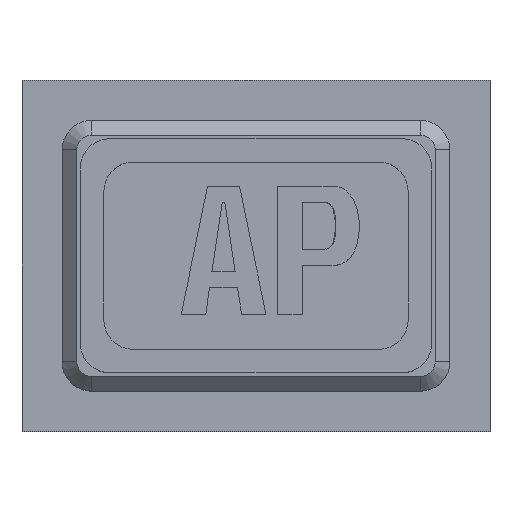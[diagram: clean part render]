
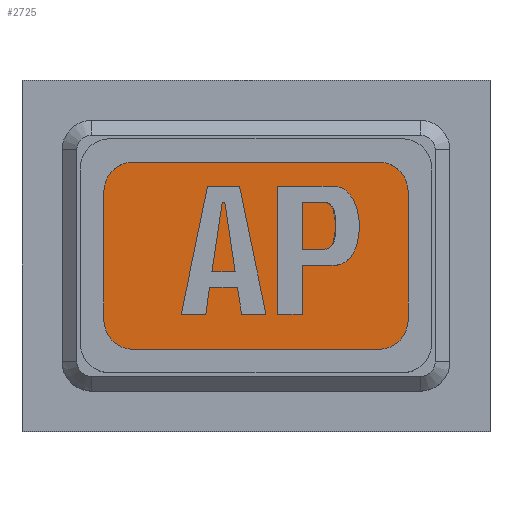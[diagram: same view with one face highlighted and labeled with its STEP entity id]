
A CAD part, top view. The second image highlights one B-rep face of the part: STEP entity #2725.
In plain terms, the highlighted planar face has unit normal (0, 0, 1).
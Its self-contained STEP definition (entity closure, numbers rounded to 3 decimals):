
#1773 = PLANE('',#1774);
#1774 = AXIS2_PLACEMENT_3D('',#1775,#1776,#1777);
#1775 = CARTESIAN_POINT('',(2.8,2.8,4.5));
#1776 = DIRECTION('',(-1.,0.,0.));
#1777 = DIRECTION('',(0.,1.,0.));
#1806 = CYLINDRICAL_SURFACE('',#1807,1.);
#1807 = AXIS2_PLACEMENT_3D('',#1808,#1809,#1810);
#1808 = CARTESIAN_POINT('',(3.8,3.8,4.5));
#1809 = DIRECTION('',(0.,0.,1.));
#1810 = DIRECTION('',(-1.,0.,0.));
#1834 = PLANE('',#1835);
#1835 = AXIS2_PLACEMENT_3D('',#1836,#1837,#1838);
#1836 = CARTESIAN_POINT('',(13.2,2.8,4.5));
#1837 = DIRECTION('',(0.,-1.,0.));
#1838 = DIRECTION('',(-1.,0.,0.));
#1867 = CYLINDRICAL_SURFACE('',#1868,1.);
#1868 = AXIS2_PLACEMENT_3D('',#1869,#1870,#1871);
#1869 = CARTESIAN_POINT('',(12.2,3.8,4.5));
#1870 = DIRECTION('',(0.,0.,1.));
#1871 = DIRECTION('',(0.,-1.,0.));
#1895 = PLANE('',#1896);
#1896 = AXIS2_PLACEMENT_3D('',#1897,#1898,#1899);
#1897 = CARTESIAN_POINT('',(13.2,9.2,4.5));
#1898 = DIRECTION('',(1.,0.,0.));
#1899 = DIRECTION('',(0.,-1.,0.));
#1928 = CYLINDRICAL_SURFACE('',#1929,1.);
#1929 = AXIS2_PLACEMENT_3D('',#1930,#1931,#1932);
#1930 = CARTESIAN_POINT('',(12.2,8.2,4.5));
#1931 = DIRECTION('',(0.,0.,1.));
#1932 = DIRECTION('',(1.,0.,0.));
#1956 = PLANE('',#1957);
#1957 = AXIS2_PLACEMENT_3D('',#1958,#1959,#1960);
#1958 = CARTESIAN_POINT('',(2.8,9.2,4.5));
#1959 = DIRECTION('',(0.,1.,0.));
#1960 = DIRECTION('',(1.,0.,0.));
#1983 = CYLINDRICAL_SURFACE('',#1984,1.);
#1984 = AXIS2_PLACEMENT_3D('',#1985,#1986,#1987);
#1985 = CARTESIAN_POINT('',(3.8,8.2,4.5));
#1986 = DIRECTION('',(0.,0.,1.));
#1987 = DIRECTION('',(-1.,0.,0.));
#2123 = EDGE_CURVE('',#2124,#2126,#2128,.T.);
#2124 = VERTEX_POINT('',#2125);
#2125 = CARTESIAN_POINT('',(2.8,3.8,4.5));
#2126 = VERTEX_POINT('',#2127);
#2127 = CARTESIAN_POINT('',(2.8,8.2,4.5));
#2128 = SURFACE_CURVE('',#2129,(#2133,#2140),.PCURVE_S1.);
#2129 = LINE('',#2130,#2131);
#2130 = CARTESIAN_POINT('',(2.8,2.8,4.5));
#2131 = VECTOR('',#2132,1.);
#2132 = DIRECTION('',(0.,1.,0.));
#2133 = PCURVE('',#1773,#2134);
#2134 = DEFINITIONAL_REPRESENTATION('',(#2135),#2139);
#2135 = LINE('',#2136,#2137);
#2136 = CARTESIAN_POINT('',(0.,0.));
#2137 = VECTOR('',#2138,1.);
#2138 = DIRECTION('',(1.,0.));
#2139 = ( GEOMETRIC_REPRESENTATION_CONTEXT(2) 
PARAMETRIC_REPRESENTATION_CONTEXT() REPRESENTATION_CONTEXT('2D SPACE',''
  ) );
#2140 = PCURVE('',#2141,#2146);
#2141 = PLANE('',#2142);
#2142 = AXIS2_PLACEMENT_3D('',#2143,#2144,#2145);
#2143 = CARTESIAN_POINT('',(8.,6.,4.5));
#2144 = DIRECTION('',(0.,0.,1.));
#2145 = DIRECTION('',(1.,0.,0.));
#2146 = DEFINITIONAL_REPRESENTATION('',(#2147),#2151);
#2147 = LINE('',#2148,#2149);
#2148 = CARTESIAN_POINT('',(-5.2,-3.2));
#2149 = VECTOR('',#2150,1.);
#2150 = DIRECTION('',(0.,1.));
#2151 = ( GEOMETRIC_REPRESENTATION_CONTEXT(2) 
PARAMETRIC_REPRESENTATION_CONTEXT() REPRESENTATION_CONTEXT('2D SPACE',''
  ) );
#2199 = EDGE_CURVE('',#2124,#2200,#2202,.T.);
#2200 = VERTEX_POINT('',#2201);
#2201 = CARTESIAN_POINT('',(3.8,2.8,4.5));
#2202 = SURFACE_CURVE('',#2203,(#2208,#2215),.PCURVE_S1.);
#2203 = CIRCLE('',#2204,1.);
#2204 = AXIS2_PLACEMENT_3D('',#2205,#2206,#2207);
#2205 = CARTESIAN_POINT('',(3.8,3.8,4.5));
#2206 = DIRECTION('',(-0.,0.,1.));
#2207 = DIRECTION('',(0.,-1.,0.));
#2208 = PCURVE('',#1806,#2209);
#2209 = DEFINITIONAL_REPRESENTATION('',(#2210),#2214);
#2210 = LINE('',#2211,#2212);
#2211 = CARTESIAN_POINT('',(-4.712,0.));
#2212 = VECTOR('',#2213,1.);
#2213 = DIRECTION('',(1.,0.));
#2214 = ( GEOMETRIC_REPRESENTATION_CONTEXT(2) 
PARAMETRIC_REPRESENTATION_CONTEXT() REPRESENTATION_CONTEXT('2D SPACE',''
  ) );
#2215 = PCURVE('',#2141,#2216);
#2216 = DEFINITIONAL_REPRESENTATION('',(#2217),#2221);
#2217 = CIRCLE('',#2218,1.);
#2218 = AXIS2_PLACEMENT_2D('',#2219,#2220);
#2219 = CARTESIAN_POINT('',(-4.2,-2.2));
#2220 = DIRECTION('',(0.,-1.));
#2221 = ( GEOMETRIC_REPRESENTATION_CONTEXT(2) 
PARAMETRIC_REPRESENTATION_CONTEXT() REPRESENTATION_CONTEXT('2D SPACE',''
  ) );
#2249 = EDGE_CURVE('',#2126,#2250,#2252,.T.);
#2250 = VERTEX_POINT('',#2251);
#2251 = CARTESIAN_POINT('',(3.8,9.2,4.5));
#2252 = SURFACE_CURVE('',#2253,(#2258,#2265),.PCURVE_S1.);
#2253 = CIRCLE('',#2254,1.);
#2254 = AXIS2_PLACEMENT_3D('',#2255,#2256,#2257);
#2255 = CARTESIAN_POINT('',(3.8,8.2,4.5));
#2256 = DIRECTION('',(-0.,-0.,-1.));
#2257 = DIRECTION('',(0.,-1.,0.));
#2258 = PCURVE('',#1983,#2259);
#2259 = DEFINITIONAL_REPRESENTATION('',(#2260),#2264);
#2260 = LINE('',#2261,#2262);
#2261 = CARTESIAN_POINT('',(1.571,-0.));
#2262 = VECTOR('',#2263,1.);
#2263 = DIRECTION('',(-1.,0.));
#2264 = ( GEOMETRIC_REPRESENTATION_CONTEXT(2) 
PARAMETRIC_REPRESENTATION_CONTEXT() REPRESENTATION_CONTEXT('2D SPACE',''
  ) );
#2265 = PCURVE('',#2141,#2266);
#2266 = DEFINITIONAL_REPRESENTATION('',(#2267),#2275);
#2267 = ( BOUNDED_CURVE() B_SPLINE_CURVE(2,(#2268,#2269,#2270,#2271,
#2272,#2273,#2274),.UNSPECIFIED.,.T.,.F.) B_SPLINE_CURVE_WITH_KNOTS((1,2
    ,2,2,2,1),(-2.094,0.,2.094,4.189,
6.283,8.378),.UNSPECIFIED.) CURVE() 
GEOMETRIC_REPRESENTATION_ITEM() RATIONAL_B_SPLINE_CURVE((1.,0.5,1.,0.5,
1.,0.5,1.)) REPRESENTATION_ITEM('') );
#2268 = CARTESIAN_POINT('',(-4.2,1.2));
#2269 = CARTESIAN_POINT('',(-5.932,1.2));
#2270 = CARTESIAN_POINT('',(-5.066,2.7));
#2271 = CARTESIAN_POINT('',(-4.2,4.2));
#2272 = CARTESIAN_POINT('',(-3.334,2.7));
#2273 = CARTESIAN_POINT('',(-2.468,1.2));
#2274 = CARTESIAN_POINT('',(-4.2,1.2));
#2275 = ( GEOMETRIC_REPRESENTATION_CONTEXT(2) 
PARAMETRIC_REPRESENTATION_CONTEXT() REPRESENTATION_CONTEXT('2D SPACE',''
  ) );
#2303 = EDGE_CURVE('',#2304,#2200,#2306,.T.);
#2304 = VERTEX_POINT('',#2305);
#2305 = CARTESIAN_POINT('',(12.2,2.8,4.5));
#2306 = SURFACE_CURVE('',#2307,(#2311,#2318),.PCURVE_S1.);
#2307 = LINE('',#2308,#2309);
#2308 = CARTESIAN_POINT('',(13.2,2.8,4.5));
#2309 = VECTOR('',#2310,1.);
#2310 = DIRECTION('',(-1.,0.,0.));
#2311 = PCURVE('',#1834,#2312);
#2312 = DEFINITIONAL_REPRESENTATION('',(#2313),#2317);
#2313 = LINE('',#2314,#2315);
#2314 = CARTESIAN_POINT('',(0.,-0.));
#2315 = VECTOR('',#2316,1.);
#2316 = DIRECTION('',(1.,0.));
#2317 = ( GEOMETRIC_REPRESENTATION_CONTEXT(2) 
PARAMETRIC_REPRESENTATION_CONTEXT() REPRESENTATION_CONTEXT('2D SPACE',''
  ) );
#2318 = PCURVE('',#2141,#2319);
#2319 = DEFINITIONAL_REPRESENTATION('',(#2320),#2324);
#2320 = LINE('',#2321,#2322);
#2321 = CARTESIAN_POINT('',(5.2,-3.2));
#2322 = VECTOR('',#2323,1.);
#2323 = DIRECTION('',(-1.,0.));
#2324 = ( GEOMETRIC_REPRESENTATION_CONTEXT(2) 
PARAMETRIC_REPRESENTATION_CONTEXT() REPRESENTATION_CONTEXT('2D SPACE',''
  ) );
#2352 = EDGE_CURVE('',#2250,#2353,#2355,.T.);
#2353 = VERTEX_POINT('',#2354);
#2354 = CARTESIAN_POINT('',(12.2,9.2,4.5));
#2355 = SURFACE_CURVE('',#2356,(#2360,#2367),.PCURVE_S1.);
#2356 = LINE('',#2357,#2358);
#2357 = CARTESIAN_POINT('',(2.8,9.2,4.5));
#2358 = VECTOR('',#2359,1.);
#2359 = DIRECTION('',(1.,0.,0.));
#2360 = PCURVE('',#1956,#2361);
#2361 = DEFINITIONAL_REPRESENTATION('',(#2362),#2366);
#2362 = LINE('',#2363,#2364);
#2363 = CARTESIAN_POINT('',(0.,0.));
#2364 = VECTOR('',#2365,1.);
#2365 = DIRECTION('',(1.,0.));
#2366 = ( GEOMETRIC_REPRESENTATION_CONTEXT(2) 
PARAMETRIC_REPRESENTATION_CONTEXT() REPRESENTATION_CONTEXT('2D SPACE',''
  ) );
#2367 = PCURVE('',#2141,#2368);
#2368 = DEFINITIONAL_REPRESENTATION('',(#2369),#2373);
#2369 = LINE('',#2370,#2371);
#2370 = CARTESIAN_POINT('',(-5.2,3.2));
#2371 = VECTOR('',#2372,1.);
#2372 = DIRECTION('',(1.,0.));
#2373 = ( GEOMETRIC_REPRESENTATION_CONTEXT(2) 
PARAMETRIC_REPRESENTATION_CONTEXT() REPRESENTATION_CONTEXT('2D SPACE',''
  ) );
#2401 = EDGE_CURVE('',#2304,#2402,#2404,.T.);
#2402 = VERTEX_POINT('',#2403);
#2403 = CARTESIAN_POINT('',(13.2,3.8,4.5));
#2404 = SURFACE_CURVE('',#2405,(#2410,#2417),.PCURVE_S1.);
#2405 = CIRCLE('',#2406,1.);
#2406 = AXIS2_PLACEMENT_3D('',#2407,#2408,#2409);
#2407 = CARTESIAN_POINT('',(12.2,3.8,4.5));
#2408 = DIRECTION('',(-0.,0.,1.));
#2409 = DIRECTION('',(0.,-1.,0.));
#2410 = PCURVE('',#1867,#2411);
#2411 = DEFINITIONAL_REPRESENTATION('',(#2412),#2416);
#2412 = LINE('',#2413,#2414);
#2413 = CARTESIAN_POINT('',(0.,0.));
#2414 = VECTOR('',#2415,1.);
#2415 = DIRECTION('',(1.,0.));
#2416 = ( GEOMETRIC_REPRESENTATION_CONTEXT(2) 
PARAMETRIC_REPRESENTATION_CONTEXT() REPRESENTATION_CONTEXT('2D SPACE',''
  ) );
#2417 = PCURVE('',#2141,#2418);
#2418 = DEFINITIONAL_REPRESENTATION('',(#2419),#2423);
#2419 = CIRCLE('',#2420,1.);
#2420 = AXIS2_PLACEMENT_2D('',#2421,#2422);
#2421 = CARTESIAN_POINT('',(4.2,-2.2));
#2422 = DIRECTION('',(0.,-1.));
#2423 = ( GEOMETRIC_REPRESENTATION_CONTEXT(2) 
PARAMETRIC_REPRESENTATION_CONTEXT() REPRESENTATION_CONTEXT('2D SPACE',''
  ) );
#2451 = EDGE_CURVE('',#2452,#2353,#2454,.T.);
#2452 = VERTEX_POINT('',#2453);
#2453 = CARTESIAN_POINT('',(13.2,8.2,4.5));
#2454 = SURFACE_CURVE('',#2455,(#2460,#2467),.PCURVE_S1.);
#2455 = CIRCLE('',#2456,1.);
#2456 = AXIS2_PLACEMENT_3D('',#2457,#2458,#2459);
#2457 = CARTESIAN_POINT('',(12.2,8.2,4.5));
#2458 = DIRECTION('',(-0.,0.,1.));
#2459 = DIRECTION('',(0.,-1.,0.));
#2460 = PCURVE('',#1928,#2461);
#2461 = DEFINITIONAL_REPRESENTATION('',(#2462),#2466);
#2462 = LINE('',#2463,#2464);
#2463 = CARTESIAN_POINT('',(-1.571,0.));
#2464 = VECTOR('',#2465,1.);
#2465 = DIRECTION('',(1.,0.));
#2466 = ( GEOMETRIC_REPRESENTATION_CONTEXT(2) 
PARAMETRIC_REPRESENTATION_CONTEXT() REPRESENTATION_CONTEXT('2D SPACE',''
  ) );
#2467 = PCURVE('',#2141,#2468);
#2468 = DEFINITIONAL_REPRESENTATION('',(#2469),#2473);
#2469 = CIRCLE('',#2470,1.);
#2470 = AXIS2_PLACEMENT_2D('',#2471,#2472);
#2471 = CARTESIAN_POINT('',(4.2,2.2));
#2472 = DIRECTION('',(0.,-1.));
#2473 = ( GEOMETRIC_REPRESENTATION_CONTEXT(2) 
PARAMETRIC_REPRESENTATION_CONTEXT() REPRESENTATION_CONTEXT('2D SPACE',''
  ) );
#2501 = EDGE_CURVE('',#2452,#2402,#2502,.T.);
#2502 = SURFACE_CURVE('',#2503,(#2507,#2514),.PCURVE_S1.);
#2503 = LINE('',#2504,#2505);
#2504 = CARTESIAN_POINT('',(13.2,9.2,4.5));
#2505 = VECTOR('',#2506,1.);
#2506 = DIRECTION('',(0.,-1.,0.));
#2507 = PCURVE('',#1895,#2508);
#2508 = DEFINITIONAL_REPRESENTATION('',(#2509),#2513);
#2509 = LINE('',#2510,#2511);
#2510 = CARTESIAN_POINT('',(0.,0.));
#2511 = VECTOR('',#2512,1.);
#2512 = DIRECTION('',(1.,0.));
#2513 = ( GEOMETRIC_REPRESENTATION_CONTEXT(2) 
PARAMETRIC_REPRESENTATION_CONTEXT() REPRESENTATION_CONTEXT('2D SPACE',''
  ) );
#2514 = PCURVE('',#2141,#2515);
#2515 = DEFINITIONAL_REPRESENTATION('',(#2516),#2520);
#2516 = LINE('',#2517,#2518);
#2517 = CARTESIAN_POINT('',(5.2,3.2));
#2518 = VECTOR('',#2519,1.);
#2519 = DIRECTION('',(0.,-1.));
#2520 = ( GEOMETRIC_REPRESENTATION_CONTEXT(2) 
PARAMETRIC_REPRESENTATION_CONTEXT() REPRESENTATION_CONTEXT('2D SPACE',''
  ) );
#2725 = ADVANCED_FACE('',(#2726),#2141,.T.);
#2726 = FACE_BOUND('',#2727,.T.);
#2727 = EDGE_LOOP('',(#2728,#2729,#2730,#2731,#2732,#2733,#2734,#2735));
#2728 = ORIENTED_EDGE('',*,*,#2123,.F.);
#2729 = ORIENTED_EDGE('',*,*,#2199,.T.);
#2730 = ORIENTED_EDGE('',*,*,#2303,.F.);
#2731 = ORIENTED_EDGE('',*,*,#2401,.T.);
#2732 = ORIENTED_EDGE('',*,*,#2501,.F.);
#2733 = ORIENTED_EDGE('',*,*,#2451,.T.);
#2734 = ORIENTED_EDGE('',*,*,#2352,.F.);
#2735 = ORIENTED_EDGE('',*,*,#2249,.F.);
